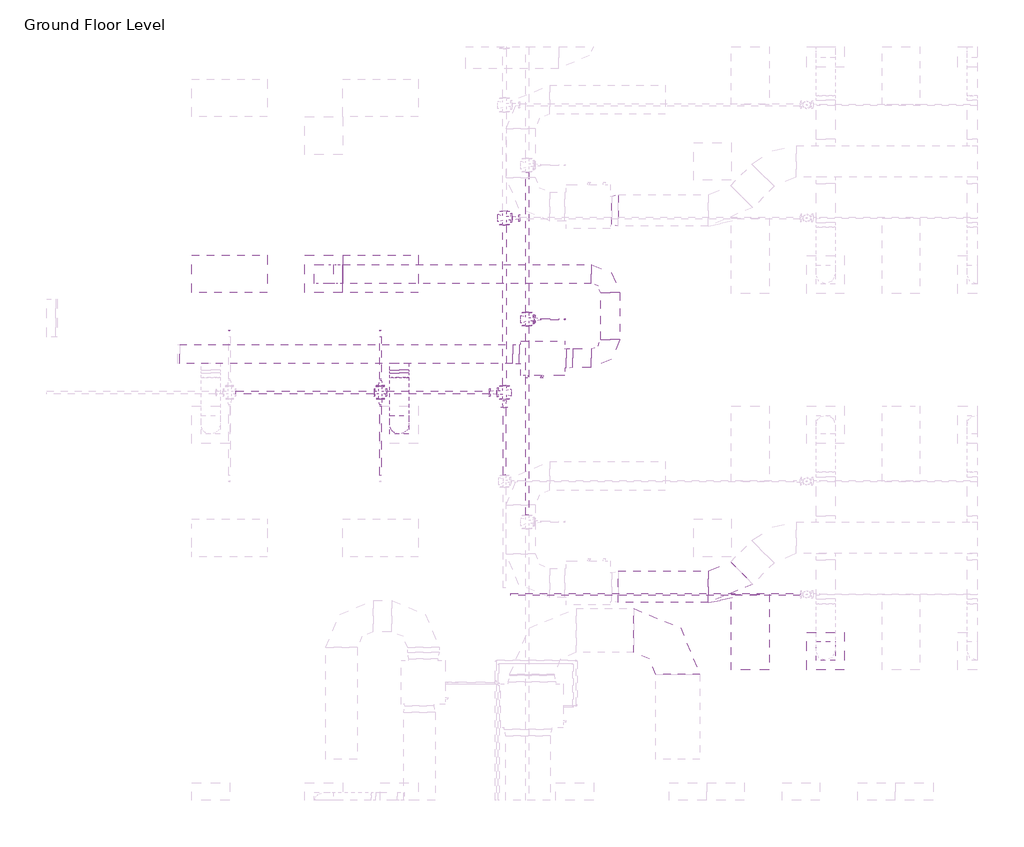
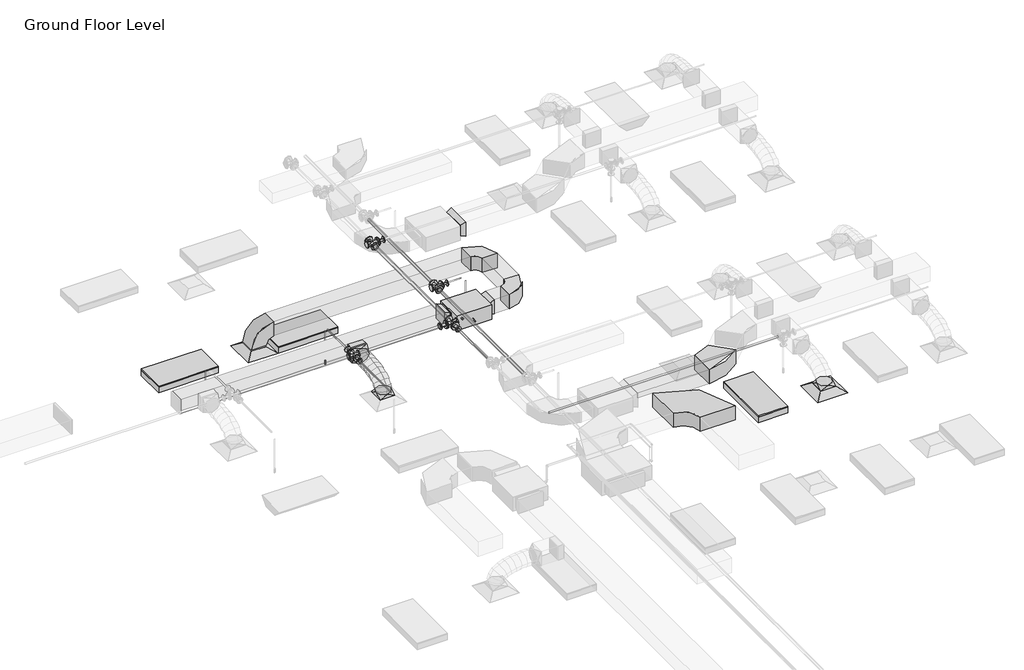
# One storey, part 35 of 68: 13 pipe segments, 12 duct fittings, 10 pipe fittings, 8 duct segments, 3 fire suppression terminals, 3 light fixtures, 2 air terminals, 1 proxy.
"""IFC4 building model written with IfcOpenShell, lengths in millimetres."""

from ifc_helpers import new_model, si_unit, point, frame, frame_2d, origin, place, context, project, spatial, polyline, circle_curve, ellipse_curve, trimmed, segment, composite_curve, outline, extrude, transform, mapped, element, save
from ifc_brep_helpers import plane_surface, cylinder_surface, advanced_brep
from components import m_return_diffuser_600_x_600_face_300_x_300_connection_ff221211, fcu_daikin_iu_27d020f6, m_rectangular_elbow_radius_1_w_618da153, m_rectangular_elbow_radius_1_w_8a62b27e, m_rectangular_elbow_radius_1_5_w_acc56c25, m_rectangular_takeoff_standard_cb0ccb98, m_rectangular_transition_angle_45_degree_2b595dfe, m_rectangular_transition_angle_45_degree_bfac0661, m_rectangular_transition_angle_45_degree_da897c11, m_rectangular_to_round_transition_angle_45_degree_641efff0, m_sprinkler_dry_pendent_hosted_15_mm_dry_pendent_9bda8e11, m_sprinkler_pendent_15_mm_pendent_06fcbd8e, m_troffer_light_parabolic_rectangular1_0600x1200mm_4_lamp_86473d4a, m_cross_flanged_cs_class_150_standard_fc817054, m_reducer_flanged_cs_class_150_standard_83138b42, m_reducer_flanged_cs_class_150_standard_3ab32b2b, m_reducer_flanged_cs_class_150_standard_a7631c35, m_reducer_flanged_cs_class_150_standard_dc68ad9d, m_tee_round_base_flanged_cs_class_150_standard_dd767e04, m_tee_round_base_flanged_cs_class_150_standard_ab36f383

model = new_model("IFC4")

# Units and contexts
model_context = context("Model", 3, world=origin())
ifc_project = project(units=[si_unit("LENGTHUNIT", "METRE", prefix="MILLI")], contexts=[model_context])

# Site, building, storey
site = spatial("IfcSite", under=ifc_project)
building = spatial("IfcBuilding", under=site)
storey = spatial("IfcBuildingStorey", under=building, Name="Ground Floor Level", Elevation=900.0)

# Air terminals
placement = place(None, origin())
m_return_diffuser_600_x_600_face_300_x_300_connection_shape = m_return_diffuser_600_x_600_face_300_x_300_connection_ff221211(model_context)
element("IfcAirTerminal", 1, ObjectType="M_Return Diffuser : 600 x 600 Face 300 x 300 Connection", at=placement, inside=storey, context=model_context, shape_type="MappedRepresentation", body=[
    mapped(m_return_diffuser_600_x_600_face_300_x_300_connection_shape, transform((2762.7672395, -1064.7846466, 3650.0), x_axis=(1.0, 0.0, 0.0), y_axis=(0.0, 1.0, 0.0), z_axis=(0.0, 0.0, 1.0))),
])
element("IfcAirTerminal", 2, ObjectType="M_Supply Diffuser : 600 x 600 Face 300 x 300 Connection", at=placement, inside=storey, context=model_context, shape_type="MappedRepresentation", body=[
    mapped(m_return_diffuser_600_x_600_face_300_x_300_connection_shape, transform((10742.7672395, -7064.7846466, 3650.0), x_axis=(1.0, 0.0, 0.0), y_axis=(0.0, 1.0, 0.0), z_axis=(0.0, 0.0, 1.0))),
])

# Proxy
fcu_daikin_iu_shape = fcu_daikin_iu_27d020f6(model_context)
element("IfcBuildingElementProxy", 3, Name="FCU-DAIKIN IU : 2.3kW, 230V/50Hz/1Ph", ObjectType="FCU-DAIKIN IU : 2.3kW, 230V/50Hz/1Ph", at=placement, inside=storey, context=model_context, shape_type="MappedRepresentation", body=[
    mapped(fcu_daikin_iu_shape, transform((6243.4139492, -2405.2438478, 3934.0874667), x_axis=(0.0, -1.0, 0.0), y_axis=(1.0, 0.0, 0.0), z_axis=(0.0, 0.0, 1.0))),
])

# Duct fittings
m_rectangular_elbow_radius_1_w_shape = m_rectangular_elbow_radius_1_w_618da153(model_context)
element("IfcDuctFitting", 4, ObjectType="M_Rectangular Elbow - Radius : 1 W", at=placement, inside=storey, context=model_context, shape_type="MappedRepresentation", body=[
    mapped(m_rectangular_elbow_radius_1_w_shape, transform((7318.8139492, -2405.2438478, 4075.2874667), x_axis=(1.0, 0.0, 0.0), y_axis=(0.0, 1.0, 0.0), z_axis=(0.0, 0.0, 1.0))),
])
element("IfcDuctFitting", 5, ObjectType="M_Rectangular Elbow - Radius : 1 W", at=placement, inside=storey, context=model_context, shape_type="MappedRepresentation", body=[
    mapped(m_rectangular_elbow_radius_1_w_shape, transform((2762.7672395, -1064.7846466, 4075.2874667), x_axis=(0.0, 0.0, 1.0), y_axis=(1.0, 0.0, 0.0), z_axis=(0.0, 1.0, 0.0))),
])
element("IfcDuctFitting", 6, ObjectType="M_Rectangular Elbow - Radius : 1 W", at=placement, inside=storey, context=model_context, shape_type="MappedRepresentation", body=[
    mapped(m_rectangular_elbow_radius_1_w_shape, transform((7318.8139492, -1064.7846466, 4075.2874667), x_axis=(0.0, 1.0, 0.0), y_axis=(-1.0, 0.0, 0.0), z_axis=(0.0, 0.0, 1.0))),
])
m_rectangular_elbow_radius_1_w_2_shape = m_rectangular_elbow_radius_1_w_8a62b27e(model_context)
element("IfcDuctFitting", 7, ObjectType="M_Rectangular Elbow - Radius : 1 W", at=placement, inside=storey, context=model_context, shape_type="MappedRepresentation", body=[
    mapped(m_rectangular_elbow_radius_1_w_2_shape, transform((8393.4139492, -6738.5358641, 4075.2875), x_axis=(0.0, 1.0, 0.0), y_axis=(-1.0, 0.0, 0.0), z_axis=(0.0, 0.0, 1.0))),
])
m_rectangular_elbow_radius_1_5_w_shape = m_rectangular_elbow_radius_1_5_w_acc56c25(model_context)
element("IfcDuctFitting", 8, ObjectType="M_Rectangular Elbow - Radius : 1.5 W", at=placement, inside=storey, context=model_context, shape_type="MappedRepresentation", body=[
    mapped(m_rectangular_elbow_radius_1_5_w_shape, transform((9187.6927358, -6043.8220473, 4100.0047224), x_axis=(0.9999999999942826, 0.0, -3.3815582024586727e-06), y_axis=(-9.063610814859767e-12, 0.9999999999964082, -2.680306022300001e-06), z_axis=(3.3815582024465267e-06, 2.6803060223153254e-06, 0.9999999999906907))),
])
m_rectangular_takeoff_standard_shape = m_rectangular_takeoff_standard_cb0ccb98(model_context)
element("IfcDuctFitting", 9, ObjectType="M_Rectangular Takeoff : Standard", at=placement, inside=storey, context=model_context, shape_type="MappedRepresentation", body=[
    mapped(m_rectangular_takeoff_standard_shape, transform((3962.7672395, -2491.7438478, 4099.9957364), x_axis=(0.0, -1.0, 0.0), y_axis=(-1.0, 0.0, 0.0), z_axis=(0.0, 0.0, -1.0))),
])
m_rectangular_transition_angle_45_degree_shape = m_rectangular_transition_angle_45_degree_2b595dfe(model_context)
element("IfcDuctFitting", 10, ObjectType="M_Rectangular Transition - Angle : 45 Degree", at=placement, inside=storey, context=model_context, shape_type="MappedRepresentation", body=[
    mapped(m_rectangular_transition_angle_45_degree_shape, transform((7344.2139492, -53.8220473, 4100.0057729), x_axis=(1.0, 0.0, 0.0), y_axis=(0.0, 1.0, 0.0), z_axis=(0.0, 0.0, 1.0))),
])
m_rectangular_transition_angle_45_degree_2_shape = m_rectangular_transition_angle_45_degree_bfac0661(model_context)
element("IfcDuctFitting", 11, ObjectType="M_Rectangular Transition - Angle : 45 Degree", at=placement, inside=storey, context=model_context, shape_type="MappedRepresentation", body=[
    mapped(m_rectangular_transition_angle_45_degree_2_shape, transform((6618.8139492, -2405.2438478, 4075.2874667), x_axis=(1.0, 0.0, 0.0), y_axis=(0.0, 1.0, 0.0), z_axis=(0.0, 0.0, 1.0))),
])
m_rectangular_transition_angle_45_degree_3_shape = m_rectangular_transition_angle_45_degree_da897c11(model_context)
element("IfcDuctFitting", 12, ObjectType="M_Rectangular Transition - Angle : 45 Degree", at=placement, inside=storey, context=model_context, shape_type="MappedRepresentation", body=[
    mapped(m_rectangular_transition_angle_45_degree_3_shape, transform((5868.0139492, -2341.7438478, 4099.9999667), x_axis=(-1.0, 0.0, 0.0), y_axis=(0.0, -1.0, 0.0), z_axis=(0.0, 0.0, 1.0))),
])
m_rectangular_to_round_transition_angle_45_degree_shape = m_rectangular_to_round_transition_angle_45_degree_641efff0(model_context)
element("IfcDuctFitting", 13, ObjectType="M_Rectangular to Round Transition - Angle : 45 Degree", at=placement, inside=storey, context=model_context, shape_type="MappedRepresentation", body=[
    mapped(m_rectangular_to_round_transition_angle_45_degree_shape, transform((10742.7672395, -7064.7846466, 3751.6), x_axis=(0.0, 0.0, 1.0), y_axis=(-1.0, 0.0, 0.0), z_axis=(0.0, -1.0, 0.0))),
])
element("IfcDuctFitting", 14, ObjectType="M_Rectangular to Round Transition - Angle : 45 Degree", at=placement, inside=storey, context=model_context, shape_type="MappedRepresentation", body=[
    mapped(m_rectangular_to_round_transition_angle_45_degree_shape, transform((3962.7672395, -3464.7846466, 3751.6), x_axis=(0.0, 0.0, 1.0), y_axis=(-1.0, 0.0, 0.0), z_axis=(0.0, -1.0, 0.0))),
])
element("IfcDuctFitting", 15, ObjectType="M_Rectangular to Round Transition - Angle : 45 Degree", at=placement, inside=storey, context=model_context, shape_type="MappedRepresentation", body=[
    mapped(m_rectangular_to_round_transition_angle_45_degree_shape, transform((3962.7672395, -2637.4444518, 4099.9957364), x_axis=(0.0, -1.0, 0.0), y_axis=(1.0, 0.0, 0.0), z_axis=(0.0, 0.0, 1.0))),
])

# Duct segments
element("IfcDuctSegment", 16, ObjectType="Flex - Round", at=placement, inside=storey, context=model_context, shape_type="AdvancedBrep", body=[
    advanced_brep(
    [(4112.7672395, -3464.7846466, 3826.6), (3962.7672395, -3614.7846466, 3826.6), (3812.7672395, -3464.7846466, 3826.6), (3962.7672395, -3314.7846466, 3826.6), (4112.7672395, -3464.7846466, 3857.9378904), (3962.7672395, -3614.7846466, 3883.5813314), (3812.7672395, -3464.7846466, 3857.9378904), (3962.7672395, -3314.7846466, 3832.2944494), (4112.7672395, -3447.7685958, 3906.2506506), (3962.7672395, -3581.5063062, 3978.066738), (3812.7672395, -3447.7685958, 3906.2506506), (3962.7672395, -3314.0308854, 3834.4345631), (4112.7672395, -3400.5843936, 3968.711118), (3962.7672395, -3504.7895631, 4079.6211441), (3812.7672395, -3400.5843936, 3968.711118), (3962.7672395, -3296.3792241, 3857.8010918), (4112.7672395, -3329.0279651, 4016.0693364), (3962.7672395, -3397.9608708, 4150.3236185), (3812.7672395, -3329.0279651, 4016.0693364), (3962.7672395, -3260.0950595, 3881.8150544), (4112.7672395, -3238.8952355, 4050.4132402), (3962.7672395, -3282.4547417, 4194.3357259), (3812.7672395, -3238.8952355, 4050.4132402), (3962.7672395, -3195.3357294, 3906.4907544), (4112.7672395, -3135.98213, 4073.8307635), (3962.7672395, -3162.5418624, 4221.6214893), (3812.7672395, -3135.98213, 4073.8307635), (3962.7672395, -3109.4223976, 3926.0400376), (4112.7672395, -3026.0845737, 4088.4098405), (3962.7672395, -3041.2344403, 4237.7142061), (3812.7672395, -3026.0845737, 4088.4098405), (3962.7672395, -3010.934707, 3939.1054749), (4112.7672395, -2914.9984918, 4096.2384055), (3962.7672395, -2922.5030142, 4246.0815611), (3812.7672395, -2914.9984918, 4096.2384055), (3962.7672395, -2907.4939693, 3946.3952499), (4112.7672395, -2808.5198094, 4099.4043927), (3962.7672395, -2811.210829, 4249.3906708), (3812.7672395, -2808.5198094, 4099.4043927), (3962.7672395, -2805.8287898, 3949.4181147), (4112.7672395, -2712.4444518, 4099.9957364), (3962.7672395, -2711.5212194, 3949.9985777), (3812.7672395, -2712.4444518, 4099.9957364), (3962.7672395, -2713.3676841, 4249.9928952)],
    [
        (0, 1, circle_curve(frame((3962.7672395, -3464.7846466, 3826.6), z_axis=(0.0, 0.0, -1.0), x_axis=(1.0, 0.0, 0.0)), 150.0)),
        (1, 2, circle_curve(frame((3962.7672395, -3464.7846466, 3826.6), z_axis=(0.0, 0.0, -1.0), x_axis=(1.0, 0.0, 0.0)), 150.0)),
        (2, 3, circle_curve(frame((3962.7672395, -3464.7846466, 3826.6), z_axis=(0.0, 0.0, -1.0), x_axis=(1.0, 0.0, 0.0)), 150.0)),
        (3, 0, circle_curve(frame((3962.7672395, -3464.7846466, 3826.6), z_axis=(0.0, 0.0, -1.0), x_axis=(1.0, 0.0, 0.0)), 150.0)),
        (0, 4),
        (4, 5, ellipse_curve(frame((3962.7672395, -3464.7846466, 3857.9378904), z_axis=(0.0, -0.1685115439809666, -0.9856996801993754), x_axis=(0.0, 0.9856996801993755, -0.1685115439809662)), 152.1761679, 150.0)),
        (5, 1),
        (5, 6, ellipse_curve(frame((3962.7672395, -3464.7846466, 3857.9378904), z_axis=(0.0, -0.1685115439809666, -0.9856996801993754), x_axis=(0.0, 0.9856996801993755, -0.1685115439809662)), 152.1761679, 150.0)),
        (6, 2),
        (6, 7, ellipse_curve(frame((3962.7672395, -3464.7846466, 3857.9378904), z_axis=(0.0, -0.1685115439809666, -0.9856996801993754), x_axis=(0.0, 0.9856996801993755, -0.1685115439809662)), 152.1761679, 150.0)),
        (7, 3),
        (7, 4, ellipse_curve(frame((3962.7672395, -3464.7846466, 3857.9378904), z_axis=(0.0, -0.1685115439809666, -0.9856996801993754), x_axis=(0.0, 0.9856996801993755, -0.1685115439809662)), 152.1761679, 150.0)),
        (4, 8),
        (8, 9, ellipse_curve(frame((3962.7672395, -3447.7685958, 3906.2506506), z_axis=(0.0, -0.4730958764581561, -0.8810109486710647), x_axis=(0.0, 0.8810109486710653, -0.4730958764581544)), 151.800282, 150.0)),
        (9, 5),
        (9, 10, ellipse_curve(frame((3962.7672395, -3447.7685958, 3906.2506506), z_axis=(0.0, -0.4730958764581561, -0.8810109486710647), x_axis=(0.0, 0.8810109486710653, -0.4730958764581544)), 151.800282, 150.0)),
        (10, 6),
        (10, 11, ellipse_curve(frame((3962.7672395, -3447.7685958, 3906.2506506), z_axis=(0.0, -0.4730958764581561, -0.8810109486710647), x_axis=(0.0, 0.8810109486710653, -0.4730958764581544)), 151.800282, 150.0)),
        (11, 7),
        (11, 8, ellipse_curve(frame((3962.7672395, -3447.7685958, 3906.2506506), z_axis=(0.0, -0.4730958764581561, -0.8810109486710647), x_axis=(0.0, 0.8810109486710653, -0.4730958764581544)), 151.800282, 150.0)),
        (8, 12),
        (12, 13, ellipse_curve(frame((3962.7672395, -3400.5843936, 3968.711118), z_axis=(0.0, -0.7287924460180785, -0.6847346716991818), x_axis=(0.0, 0.6847346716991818, -0.7287924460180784)), 152.1832818, 150.0)),
        (13, 9),
        (13, 14, ellipse_curve(frame((3962.7672395, -3400.5843936, 3968.711118), z_axis=(0.0, -0.7287924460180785, -0.6847346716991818), x_axis=(0.0, 0.6847346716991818, -0.7287924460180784)), 152.1832818, 150.0)),
        (14, 10),
        (14, 15, ellipse_curve(frame((3962.7672395, -3400.5843936, 3968.711118), z_axis=(0.0, -0.7287924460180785, -0.6847346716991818), x_axis=(0.0, 0.6847346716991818, -0.7287924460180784)), 152.1832818, 150.0)),
        (15, 11),
        (15, 12, ellipse_curve(frame((3962.7672395, -3400.5843936, 3968.711118), z_axis=(0.0, -0.7287924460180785, -0.6847346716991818), x_axis=(0.0, 0.6847346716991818, -0.7287924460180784)), 152.1832818, 150.0)),
        (12, 16),
        (16, 17, ellipse_curve(frame((3962.7672395, -3329.0279651, 4016.0693364), z_axis=(0.0, -0.8895898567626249, -0.45676020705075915), x_axis=(0.0, 0.45676020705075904, -0.889589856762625)), 150.9170558, 150.0)),
        (17, 13),
        (17, 18, ellipse_curve(frame((3962.7672395, -3329.0279651, 4016.0693364), z_axis=(0.0, -0.8895898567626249, -0.45676020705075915), x_axis=(0.0, 0.45676020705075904, -0.889589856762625)), 150.9170558, 150.0)),
        (18, 14),
        (18, 19, ellipse_curve(frame((3962.7672395, -3329.0279651, 4016.0693364), z_axis=(0.0, -0.8895898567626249, -0.45676020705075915), x_axis=(0.0, 0.45676020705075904, -0.889589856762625)), 150.9170558, 150.0)),
        (19, 15),
        (19, 16, ellipse_curve(frame((3962.7672395, -3329.0279651, 4016.0693364), z_axis=(0.0, -0.8895898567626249, -0.45676020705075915), x_axis=(0.0, 0.45676020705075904, -0.889589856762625)), 150.9170558, 150.0)),
        (16, 20),
        (20, 21, ellipse_curve(frame((3962.7672395, -3238.8952355, 4050.4132402), z_axis=(0.0, -0.9571228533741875, -0.2896823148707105), x_axis=(0.0, 0.28968231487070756, -0.9571228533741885)), 150.3699188, 150.0)),
        (21, 17),
        (21, 22, ellipse_curve(frame((3962.7672395, -3238.8952355, 4050.4132402), z_axis=(0.0, -0.9571228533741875, -0.2896823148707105), x_axis=(0.0, 0.28968231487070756, -0.9571228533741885)), 150.3699188, 150.0)),
        (22, 18),
        (22, 23, ellipse_curve(frame((3962.7672395, -3238.8952355, 4050.4132402), z_axis=(0.0, -0.9571228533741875, -0.2896823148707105), x_axis=(0.0, 0.28968231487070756, -0.9571228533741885)), 150.3699188, 150.0)),
        (23, 19),
        (23, 20, ellipse_curve(frame((3962.7672395, -3238.8952355, 4050.4132402), z_axis=(0.0, -0.9571228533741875, -0.2896823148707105), x_axis=(0.0, 0.28968231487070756, -0.9571228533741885)), 150.3699188, 150.0)),
        (20, 24),
        (24, 25, ellipse_curve(frame((3962.7672395, -3135.98213, 4073.8307635), z_axis=(0.0, -0.984232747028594, -0.1768782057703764), x_axis=(0.0, 0.17687820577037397, -0.9842327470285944)), 150.1583099, 150.0)),
        (25, 21),
        (25, 26, ellipse_curve(frame((3962.7672395, -3135.98213, 4073.8307635), z_axis=(0.0, -0.984232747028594, -0.1768782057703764), x_axis=(0.0, 0.17687820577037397, -0.9842327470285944)), 150.1583099, 150.0)),
        (26, 22),
        (26, 27, ellipse_curve(frame((3962.7672395, -3135.98213, 4073.8307635), z_axis=(0.0, -0.984232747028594, -0.1768782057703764), x_axis=(0.0, 0.17687820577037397, -0.9842327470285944)), 150.1583099, 150.0)),
        (27, 23),
        (27, 24, ellipse_curve(frame((3962.7672395, -3135.98213, 4073.8307635), z_axis=(0.0, -0.984232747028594, -0.1768782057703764), x_axis=(0.0, 0.17687820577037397, -0.9842327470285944)), 150.1583099, 150.0)),
        (24, 28),
        (28, 29, ellipse_curve(frame((3962.7672395, -3026.0845737, 4088.4098405), z_axis=(0.0, -0.9948913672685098, -0.10095131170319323), x_axis=(0.0, 0.10095131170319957, -0.994891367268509)), 150.0710233, 150.0)),
        (29, 25),
        (29, 30, ellipse_curve(frame((3962.7672395, -3026.0845737, 4088.4098405), z_axis=(0.0, -0.9948913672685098, -0.10095131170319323), x_axis=(0.0, 0.10095131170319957, -0.994891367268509)), 150.0710233, 150.0)),
        (30, 26),
        (30, 31, ellipse_curve(frame((3962.7672395, -3026.0845737, 4088.4098405), z_axis=(0.0, -0.9948913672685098, -0.10095131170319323), x_axis=(0.0, 0.10095131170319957, -0.994891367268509)), 150.0710233, 150.0)),
        (31, 27),
        (31, 28, ellipse_curve(frame((3962.7672395, -3026.0845737, 4088.4098405), z_axis=(0.0, -0.9948913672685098, -0.10095131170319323), x_axis=(0.0, 0.10095131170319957, -0.994891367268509)), 150.0710233, 150.0)),
        (28, 32),
        (32, 33, ellipse_curve(frame((3962.7672395, -2914.9984918, 4096.2384055), z_axis=(0.0, -0.9987482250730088, -0.050019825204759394), x_axis=(0.0, 0.05001982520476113, -0.9987482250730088)), 150.0309606, 150.0)),
        (33, 29),
        (33, 34, ellipse_curve(frame((3962.7672395, -2914.9984918, 4096.2384055), z_axis=(0.0, -0.9987482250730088, -0.050019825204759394), x_axis=(0.0, 0.05001982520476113, -0.9987482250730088)), 150.0309606, 150.0)),
        (34, 30),
        (34, 35, ellipse_curve(frame((3962.7672395, -2914.9984918, 4096.2384055), z_axis=(0.0, -0.9987482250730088, -0.050019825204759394), x_axis=(0.0, 0.05001982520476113, -0.9987482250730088)), 150.0309606, 150.0)),
        (35, 31),
        (35, 32, ellipse_curve(frame((3962.7672395, -2914.9984918, 4096.2384055), z_axis=(0.0, -0.9987482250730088, -0.050019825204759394), x_axis=(0.0, 0.05001982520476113, -0.9987482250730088)), 150.0309606, 150.0)),
        (32, 36),
        (36, 37, ellipse_curve(frame((3962.7672395, -2808.5198094, 4099.4043927), z_axis=(0.0, -0.9998390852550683, -0.01793888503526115), x_axis=(0.0, 0.017938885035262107, -0.9998390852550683)), 150.0104169, 150.0)),
        (37, 33),
        (37, 38, ellipse_curve(frame((3962.7672395, -2808.5198094, 4099.4043927), z_axis=(0.0, -0.9998390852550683, -0.01793888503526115), x_axis=(0.0, 0.017938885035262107, -0.9998390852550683)), 150.0104169, 150.0)),
        (38, 34),
        (38, 39, ellipse_curve(frame((3962.7672395, -2808.5198094, 4099.4043927), z_axis=(0.0, -0.9998390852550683, -0.01793888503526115), x_axis=(0.0, 0.017938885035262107, -0.9998390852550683)), 150.0104169, 150.0)),
        (39, 35),
        (39, 36, ellipse_curve(frame((3962.7672395, -2808.5198094, 4099.4043927), z_axis=(0.0, -0.9998390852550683, -0.01793888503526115), x_axis=(0.0, 0.017938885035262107, -0.9998390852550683)), 150.0104169, 150.0)),
        (40, 41, circle_curve(frame((3962.7672395, -2712.4444518, 4099.9957364), z_axis=(0.0, 0.9999810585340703, 0.006154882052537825), x_axis=(1.0, 0.0, 0.0)), 150.0)),
        (41, 42, circle_curve(frame((3962.7672395, -2712.4444518, 4099.9957364), z_axis=(0.0, 0.9999810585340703, 0.006154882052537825), x_axis=(1.0, 0.0, 0.0)), 150.0)),
        (42, 43, circle_curve(frame((3962.7672395, -2712.4444518, 4099.9957364), z_axis=(0.0, 0.9999810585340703, 0.006154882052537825), x_axis=(1.0, 0.0, 0.0)), 150.0)),
        (43, 40, circle_curve(frame((3962.7672395, -2712.4444518, 4099.9957364), z_axis=(0.0, 0.9999810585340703, 0.006154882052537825), x_axis=(1.0, 0.0, 0.0)), 150.0)),
        (36, 40),
        (43, 37),
        (42, 38),
        (41, 39),
    ],
    [
        plane_surface(frame((3962.7672395, -3614.7846466, 3826.6), z_axis=(0.0, 0.0, -1.0), x_axis=(1.0, 0.0, 0.0))),
        cylinder_surface(frame((3962.7672395, -3464.7846466, 3826.6), z_axis=(0.0, 0.0, -1.0), x_axis=(1.0, 0.0, 0.0)), 150.0),
        cylinder_surface(frame((3962.7672395, -3464.7846466, 3857.9378904), z_axis=(0.0, -0.3322035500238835, -0.9432077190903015), x_axis=(1.0, 0.0, 0.0)), 150.0),
        cylinder_surface(frame((3962.7672395, -3447.7685958, 3906.2506506), z_axis=(0.0, -0.6027668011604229, -0.7979174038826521), x_axis=(1.0, 0.0, 0.0)), 150.0),
        cylinder_surface(frame((3962.7672395, -3400.5843936, 3968.711118), z_axis=(0.0, -0.8339069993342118, -0.5519049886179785), x_axis=(1.0, 0.0, 0.0)), 150.0),
        cylinder_surface(frame((3962.7672395, -3329.0279651, 4016.0693364), z_axis=(0.0, -0.9344614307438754, -0.35606436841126), x_axis=(1.0, 0.0, 0.0)), 150.0),
        cylinder_surface(frame((3962.7672395, -3238.8952355, 4050.4132402), z_axis=(0.0, -0.9750751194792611, -0.22187499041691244), x_axis=(1.0, 0.0, 0.0)), 150.0),
        cylinder_surface(frame((3962.7672395, -3135.98213, 4073.8307635), z_axis=(0.0, -0.9913150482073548, -0.1315084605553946), x_axis=(1.0, 0.0, 0.0)), 150.0),
        cylinder_surface(frame((3962.7672395, -3026.0845737, 4088.4098405), z_axis=(0.0, -0.9975259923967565, -0.07029860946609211), x_axis=(1.0, 0.0, 0.0)), 150.0),
        cylinder_surface(frame((3962.7672395, -2914.9984918, 4096.2384055), z_axis=(0.0, -0.9995582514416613, -0.029720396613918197), x_axis=(1.0, 0.0, 0.0)), 150.0),
        plane_surface(frame((3962.7672395, -2713.3676841, 4249.9928952), z_axis=(0.0, 0.9999810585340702, 0.006154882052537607), x_axis=(1.0, 0.0, 0.0))),
        cylinder_surface(frame((3962.7672395, -2808.5198094, 4099.4043927), z_axis=(0.0, -0.9999810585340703, -0.006154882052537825), x_axis=(1.0, 0.0, 0.0)), 150.0),
    ],
    [
        (0, [[1, 2, 3, 4]]),
        (1, [[-1, 5, 6, 7]]),
        (1, [[-2, -7, 8, 9]]),
        (1, [[-3, -9, 10, 11]]),
        (1, [[-4, -11, 12, -5]]),
        (2, [[-6, 13, 14, 15]]),
        (2, [[-8, -15, 16, 17]]),
        (2, [[-10, -17, 18, 19]]),
        (2, [[-12, -19, 20, -13]]),
        (3, [[-14, 21, 22, 23]]),
        (3, [[-16, -23, 24, 25]]),
        (3, [[-18, -25, 26, 27]]),
        (3, [[-20, -27, 28, -21]]),
        (4, [[-22, 29, 30, 31]]),
        (4, [[-24, -31, 32, 33]]),
        (4, [[-26, -33, 34, 35]]),
        (4, [[-28, -35, 36, -29]]),
        (5, [[-30, 37, 38, 39]]),
        (5, [[-32, -39, 40, 41]]),
        (5, [[-34, -41, 42, 43]]),
        (5, [[-36, -43, 44, -37]]),
        (6, [[-38, 45, 46, 47]]),
        (6, [[-40, -47, 48, 49]]),
        (6, [[-42, -49, 50, 51]]),
        (6, [[-44, -51, 52, -45]]),
        (7, [[-46, 53, 54, 55]]),
        (7, [[-48, -55, 56, 57]]),
        (7, [[-50, -57, 58, 59]]),
        (7, [[-52, -59, 60, -53]]),
        (8, [[-54, 61, 62, 63]]),
        (8, [[-56, -63, 64, 65]]),
        (8, [[-58, -65, 66, 67]]),
        (8, [[-60, -67, 68, -61]]),
        (9, [[-62, 69, 70, 71]]),
        (9, [[-64, -71, 72, 73]]),
        (9, [[-66, -73, 74, 75]]),
        (9, [[-68, -75, 76, -69]]),
        (10, [[77, 78, 79, 80]]),
        (11, [[-70, 81, -80, 82]]),
        (11, [[-72, -82, -79, 83]]),
        (11, [[-74, -83, -78, 84]]),
        (11, [[-76, -84, -77, -81]]),
    ],
),
])
element("IfcDuctSegment", 17, ObjectType="Radius Elbows / Taps", at=placement, inside=storey, context=model_context, shape_type="SweptSolid", body=[
    extrude(outline(polyline([(7447.693178, -6293.8220473), (7447.693178, -5793.8220473), (8877.032564, -5793.8220473), (8877.032564, -6293.8220473), (7447.693178, -6293.8220473)])), frame((0.0, 0.0, 3950.0057729), z_axis=(0.0, 0.0, 1.0), x_axis=(1.0, 0.0, 0.0)), (0.0, 0.0, 1.0), 300.0),
])
element("IfcDuctSegment", 18, ObjectType="Radius Elbows / Taps", at=placement, inside=storey, context=model_context, shape_type="SweptSolid", body=[
    extrude(outline(polyline([(6722.2630004, -2555.2438478), (6722.2630004, -2255.2438478), (7018.8139492, -2255.2438478), (7018.8139492, -2555.2438478), (6722.2630004, -2555.2438478)])), frame((0.0, 0.0, 3925.2874667), z_axis=(0.0, 0.0, 1.0), x_axis=(1.0, 0.0, 0.0)), (0.0, 0.0, 1.0), 300.0),
])
element("IfcDuctSegment", 19, ObjectType="Radius Elbows / Taps", at=placement, inside=storey, context=model_context, shape_type="SweptSolid", body=[
    extrude(outline(polyline([(7468.8139492, -2105.2438478), (7168.8139492, -2105.2438478), (7168.8139492, -1364.7846466), (7468.8139492, -1364.7846466), (7468.8139492, -2105.2438478)])), frame((0.0, 0.0, 3925.2874667), z_axis=(0.0, 0.0, 1.0), x_axis=(1.0, 0.0, 0.0)), (0.0, 0.0, 1.0), 300.0),
])
element("IfcDuctSegment", 20, ObjectType="Radius Elbows / Taps", at=placement, inside=storey, context=model_context, shape_type="SweptSolid", body=[
    extrude(outline(polyline([(3062.7672395, -1214.7846466), (3062.7672395, -914.7846466), (7018.8139492, -914.7846466), (7018.8139492, -1214.7846466), (3062.7672395, -1214.7846466)])), frame((0.0, 0.0, 3925.2874667), z_axis=(0.0, 0.0, 1.0), x_axis=(1.0, 0.0, 0.0)), (0.0, 0.0, 1.0), 300.0),
])
element("IfcDuctSegment", 21, ObjectType="Radius Elbows / Taps", at=placement, inside=storey, context=model_context, shape_type="SweptSolid", body=[
    extrude(outline(polyline([(2912.7672395, -914.7846466), (2912.7672395, -1214.7846466), (2612.7672395, -1214.7846466), (2612.7672395, -914.7846466), (2912.7672395, -914.7846466)])), frame((0.0, 0.0, 3751.6), z_axis=(0.0, 0.0, 1.0), x_axis=(1.0, 0.0, 0.0)), (0.0, 0.0, 1.0), 23.6874667),
])
element("IfcDuctSegment", 22, ObjectType="Radius Elbows / Taps", at=placement, inside=storey, context=model_context, shape_type="SweptSolid", body=[
    extrude(outline(polyline([(0.0, -300.0), (0.0, 0.0), (5296.5207712, 0.0), (5296.5207712, -300.0), (0.0, -300.0)])), frame((5764.5350754, -2491.7438478, 3950.0), z_axis=(-2.366321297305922e-06, 0.0, 0.9999999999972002), x_axis=(-0.9999999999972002, 0.0, -2.366321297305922e-06)), (0.0, 0.0, 1.0), 300.0),
])
element("IfcDuctSegment", 23, ObjectType="Radius Elbows / Taps", at=placement, inside=storey, context=model_context, shape_type="SweptSolid", body=[
    extrude(outline(polyline([(3812.7672395, -2593.3438478), (4112.7672395, -2593.3438478), (4112.7672395, -2637.4444518), (3812.7672395, -2637.4444518), (3812.7672395, -2593.3438478)])), frame((0.0, 0.0, 3949.9957364), z_axis=(0.0, 0.0, 1.0), x_axis=(1.0, 0.0, 0.0)), (0.0, 0.0, 1.0), 300.0),
])

# Fire suppression terminals
m_sprinkler_dry_pendent_hosted_15_mm_dry_pendent_shape = m_sprinkler_dry_pendent_hosted_15_mm_dry_pendent_9bda8e11(model_context)
element("IfcFireSuppressionTerminal", 24, ObjectType="M_Sprinkler - Dry - Pendent - Hosted : 15 mm Dry Pendent", at=placement, inside=storey, context=model_context, shape_type="MappedRepresentation", body=[
    mapped(m_sprinkler_dry_pendent_hosted_15_mm_dry_pendent_shape, transform((1262.7672395, -1964.7846466, 3650.0), x_axis=(1.0, 0.0, 0.0), y_axis=(0.0, -1.0, 0.0), z_axis=(0.0, 0.0, -1.0))),
])
element("IfcFireSuppressionTerminal", 25, ObjectType="M_Sprinkler - Dry - Pendent - Hosted : 15 mm Dry Pendent", at=placement, inside=storey, context=model_context, shape_type="MappedRepresentation", body=[
    mapped(m_sprinkler_dry_pendent_hosted_15_mm_dry_pendent_shape, transform((3662.7672395, -1964.7846466, 3650.0), x_axis=(1.0, 0.0, 0.0), y_axis=(0.0, -1.0, 0.0), z_axis=(0.0, 0.0, -1.0))),
])
m_sprinkler_pendent_15_mm_pendent_shape = m_sprinkler_pendent_15_mm_pendent_06fcbd8e(model_context)
element("IfcFireSuppressionTerminal", 26, ObjectType="M_Sprinkler - Pendent : 15 mm Pendent", at=placement, inside=storey, context=model_context, shape_type="MappedRepresentation", body=[
    mapped(m_sprinkler_pendent_15_mm_pendent_shape, transform((6592.5481019, -1785.2908301, 3650.0), x_axis=(1.0, 0.0, 0.0), y_axis=(0.0, 1.0, 0.0), z_axis=(0.0, 0.0, 1.0))),
])

# Light fixtures
m_troffer_light_parabolic_rectangular1_0600x1200mm_4_lamp_shape = m_troffer_light_parabolic_rectangular1_0600x1200mm_4_lamp_86473d4a(model_context)
element("IfcLightFixture", 27, ObjectType="M_Troffer Light - Parabolic Rectangular1 : 0600x1200mm(4 Lamp) - 277V 2", at=placement, inside=storey, context=model_context, shape_type="MappedRepresentation", body=[
    mapped(m_troffer_light_parabolic_rectangular1_0600x1200mm_4_lamp_shape, transform((9483.3013074, -6746.081145, 3650.0), x_axis=(0.0, 1.0, 0.0), y_axis=(-1.0, 0.0, 0.0), z_axis=(0.0, 0.0, 1.0))),
])
element("IfcLightFixture", 28, ObjectType="M_Troffer Light - Parabolic Rectangular1 : 0600x1200mm(4 Lamp) - 277V 2", at=placement, inside=storey, context=model_context, shape_type="MappedRepresentation", body=[
    mapped(m_troffer_light_parabolic_rectangular1_0600x1200mm_4_lamp_shape, transform((3681.4707411, -1005.3187145, 3650.0), x_axis=(1.0, 0.0, 0.0), y_axis=(0.0, 1.0, 0.0), z_axis=(0.0, 0.0, 1.0))),
])
element("IfcLightFixture", 29, ObjectType="M_Troffer Light - Parabolic Rectangular1 : 0600x1200mm(4 Lamp) - 277V 2", at=placement, inside=storey, context=model_context, shape_type="MappedRepresentation", body=[
    mapped(m_troffer_light_parabolic_rectangular1_0600x1200mm_4_lamp_shape, transform((1281.4707411, -1005.3187145, 3650.0), x_axis=(1.0, 0.0, 0.0), y_axis=(0.0, 1.0, 0.0), z_axis=(0.0, 0.0, 1.0))),
])

# Pipe fittings
m_cross_flanged_cs_class_150_standard_shape = m_cross_flanged_cs_class_150_standard_fc817054(model_context)
element("IfcPipeFitting", 30, ObjectType="M_Cross - Flanged - CS - Class 150 : Standard", at=placement, inside=storey, context=model_context, shape_type="MappedRepresentation", body=[
    mapped(m_cross_flanged_cs_class_150_standard_shape, transform((3662.7672395, -2950.3491993, 4360.0), x_axis=(1.0, 0.0, 0.0), y_axis=(0.0, -1.0, 0.0), z_axis=(0.0, 0.0, -1.0))),
])
m_reducer_flanged_cs_class_150_standard_shape = m_reducer_flanged_cs_class_150_standard_83138b42(model_context)
element("IfcPipeFitting", 31, ObjectType="M_Reducer - Flanged - CS - Class 150 : Standard", at=placement, inside=storey, context=model_context, shape_type="MappedRepresentation", body=[
    mapped(m_reducer_flanged_cs_class_150_standard_shape, transform((6109.3164057, -1785.2908301, 4291.2754753), x_axis=(1.0, 0.0, 0.0), y_axis=(0.0, 0.0, -1.0), z_axis=(0.0, 1.0, 0.0))),
])
m_reducer_flanged_cs_class_150_standard_2_shape = m_reducer_flanged_cs_class_150_standard_3ab32b2b(model_context)
element("IfcPipeFitting", 32, ObjectType="M_Reducer - Flanged - CS - Class 150 : Standard", at=placement, inside=storey, context=model_context, shape_type="MappedRepresentation", body=[
    mapped(m_reducer_flanged_cs_class_150_standard_2_shape, transform((5521.869498, -2950.3491993, 4360.0), x_axis=(-1.0, 0.0, 0.0), y_axis=(0.0, -1.0, 0.0), z_axis=(0.0, 0.0, 1.0))),
])
m_reducer_flanged_cs_class_150_standard_3_shape = m_reducer_flanged_cs_class_150_standard_a7631c35(model_context)
element("IfcPipeFitting", 33, ObjectType="M_Reducer - Flanged - CS - Class 150 : Standard", at=placement, inside=storey, context=model_context, shape_type="MappedRepresentation", body=[
    mapped(m_reducer_flanged_cs_class_150_standard_3_shape, transform((5749.869498, -174.7846466, 4360.0), x_axis=(1.0, 0.0, 0.0), y_axis=(0.0, 0.0, 1.0), z_axis=(0.0, -1.0, 0.0))),
])
element("IfcPipeFitting", 34, ObjectType="M_Reducer - Flanged - CS - Class 150 : Standard", at=placement, inside=storey, context=model_context, shape_type="MappedRepresentation", body=[
    mapped(m_reducer_flanged_cs_class_150_standard_3_shape, transform((5635.869498, -3064.3491993, 4360.0), x_axis=(0.0, -1.0, 0.0), y_axis=(1.0, 0.0, 0.0), z_axis=(0.0, 0.0, 1.0))),
])
m_reducer_flanged_cs_class_150_standard_4_shape = m_reducer_flanged_cs_class_150_standard_dc68ad9d(model_context)
element("IfcPipeFitting", 35, ObjectType="M_Reducer - Flanged - CS - Class 150 : Standard", at=placement, inside=storey, context=model_context, shape_type="MappedRepresentation", body=[
    mapped(m_reducer_flanged_cs_class_150_standard_4_shape, transform((3662.7672395, -2848.3491993, 4360.0), x_axis=(0.0, 1.0, 0.0), y_axis=(-1.0, 0.0, 0.0), z_axis=(0.0, 0.0, 1.0))),
])
element("IfcPipeFitting", 36, ObjectType="M_Reducer - Flanged - CS - Class 150 : Standard", at=placement, inside=storey, context=model_context, shape_type="MappedRepresentation", body=[
    mapped(m_reducer_flanged_cs_class_150_standard_4_shape, transform((3662.7672395, -3052.3491993, 4360.0), x_axis=(0.0, -1.0, 0.0), y_axis=(1.0, 0.0, 0.0), z_axis=(0.0, 0.0, 1.0))),
])
m_tee_round_base_flanged_cs_class_150_standard_shape = m_tee_round_base_flanged_cs_class_150_standard_dd767e04(model_context)
element("IfcPipeFitting", 37, ObjectType="M_Tee Round Base - Flanged - CS - Class 150 : Standard", at=placement, inside=storey, context=model_context, shape_type="MappedRepresentation", body=[
    mapped(m_tee_round_base_flanged_cs_class_150_standard_shape, transform((5635.869498, -174.7846466, 4360.0), x_axis=(0.0, 1.0, 0.0), y_axis=(-1.0, 0.0, 0.0), z_axis=(0.0, 0.0, 1.0))),
])
element("IfcPipeFitting", 38, ObjectType="M_Tee Round Base - Flanged - CS - Class 150 : Standard", at=placement, inside=storey, context=model_context, shape_type="MappedRepresentation", body=[
    mapped(m_tee_round_base_flanged_cs_class_150_standard_shape, transform((5635.869498, -2950.3491993, 4360.0), x_axis=(0.0, 1.0, 0.0), y_axis=(1.0, 0.0, 0.0), z_axis=(0.0, 0.0, -1.0))),
])
m_tee_round_base_flanged_cs_class_150_standard_2_shape = m_tee_round_base_flanged_cs_class_150_standard_ab36f383(model_context)
element("IfcPipeFitting", 39, ObjectType="M_Tee Round Base - Flanged - CS - Class 150 : Standard", at=placement, inside=storey, context=model_context, shape_type="MappedRepresentation", body=[
    mapped(m_tee_round_base_flanged_cs_class_150_standard_2_shape, transform((5997.057812, -1785.2908301, 4291.0943441), x_axis=(0.0, 1.0, 0.0), y_axis=(-1.0, 0.0, 0.0), z_axis=(0.0, 0.0, 1.0))),
])

# Pipe segments
element("IfcPipeSegment", 40, ObjectType="Steel flanged", at=placement, inside=storey, context=model_context, shape_type="SweptSolid", body=[
    extrude(outline(composite_curve([segment(trimmed(circle_curve(frame_2d((6592.5481019, -1785.2908301)), 10.668), [point((6581.8801019, -1785.2908301))], [point((6592.5481019, -1774.6228301))], False, "CARTESIAN"), True, "CONTINUOUS"), segment(trimmed(circle_curve(frame_2d((6592.5481019, -1785.2908301)), 10.668), [point((6592.5481019, -1774.6228301))], [point((6603.2161019, -1785.2908301))], False, "CARTESIAN"), True, "CONTINUOUS"), segment(trimmed(circle_curve(frame_2d((6592.5481019, -1785.2908301)), 10.668), [point((6603.2161019, -1785.2908301))], [point((6592.5481019, -1795.9588301))], False, "CARTESIAN"), True, "CONTINUOUS"), segment(trimmed(circle_curve(frame_2d((6592.5481019, -1785.2908301)), 10.668), [point((6592.5481019, -1795.9588301))], [point((6581.8801019, -1785.2908301))], False, "CARTESIAN"), True, "CONTINUOUS")], self_intersect=False)), frame((0.0, 0.0, 3650.0), z_axis=(0.0, 0.0, 1.0), x_axis=(1.0, 0.0, 0.0)), (0.0, 0.0, 1.0), 548.2668816),
])
element("IfcPipeSegment", 41, ObjectType="Steel flanged", at=placement, inside=storey, context=model_context, shape_type="SweptSolid", body=[
    extrude(outline(composite_curve([segment(trimmed(circle_curve(frame_2d((-1785.2908301, 4291.2754753)), 10.668), [point((-1774.6228301, 4291.2754753))], [point((-1785.2908301, 4280.6074753))], False, "CARTESIAN"), True, "CONTINUOUS"), segment(trimmed(circle_curve(frame_2d((-1785.2908301, 4291.2754753)), 10.668), [point((-1785.2908301, 4280.6074753))], [point((-1795.9588301, 4291.2754753))], False, "CARTESIAN"), True, "CONTINUOUS"), segment(trimmed(circle_curve(frame_2d((-1785.2908301, 4291.2754753)), 10.668), [point((-1795.9588301, 4291.2754753))], [point((-1785.2908301, 4301.9434753))], False, "CARTESIAN"), True, "CONTINUOUS"), segment(trimmed(circle_curve(frame_2d((-1785.2908301, 4291.2754753)), 10.668), [point((-1785.2908301, 4301.9434753))], [point((-1774.6228301, 4291.2754753))], False, "CARTESIAN"), True, "CONTINUOUS")], self_intersect=False)), frame((6223.3164057, 0.0, 0.0), z_axis=(1.0, 0.0, 0.0), x_axis=(0.0, 1.0, 0.0)), (0.0, 0.0, 1.0), 276.2231025),
])
element("IfcPipeSegment", 42, ObjectType="Steel flanged", at=placement, inside=storey, context=model_context, shape_type="SweptSolid", body=[
    extrude(outline(composite_curve([segment(trimmed(circle_curve(frame_2d((4291.0943441, 5997.057812)), 24.13), [point((4291.0943441, 5972.927812))], [point((4266.9643441, 5997.057812))], False, "CARTESIAN"), True, "CONTINUOUS"), segment(trimmed(circle_curve(frame_2d((4291.0943441, 5997.057812)), 24.13), [point((4266.9643441, 5997.057812))], [point((4291.0943441, 6021.187812))], False, "CARTESIAN"), True, "CONTINUOUS"), segment(trimmed(circle_curve(frame_2d((4291.0943441, 5997.057812)), 24.13), [point((4291.0943441, 6021.187812))], [point((4315.2243441, 5997.057812))], False, "CARTESIAN"), True, "CONTINUOUS"), segment(trimmed(circle_curve(frame_2d((4291.0943441, 5997.057812)), 24.13), [point((4315.2243441, 5997.057812))], [point((4291.0943441, 5972.927812))], False, "CARTESIAN"), True, "CONTINUOUS")], self_intersect=False)), frame((0.0, -1673.0322363, 0.0), z_axis=(0.0, 1.0, 0.0), x_axis=(0.0, 0.0, 1.0)), (0.0, 0.0, 1.0), 2227.4228491),
])
element("IfcPipeSegment", 43, ObjectType="Steel flanged", at=placement, inside=storey, context=model_context, shape_type="SweptSolid", body=[
    extrude(outline(composite_curve([segment(trimmed(circle_curve(frame_2d((4291.0943441, 5997.057812)), 24.13), [point((4291.0943441, 5972.927812))], [point((4266.9643441, 5997.057812))], False, "CARTESIAN"), True, "CONTINUOUS"), segment(trimmed(circle_curve(frame_2d((4291.0943441, 5997.057812)), 24.13), [point((4266.9643441, 5997.057812))], [point((4291.0943441, 6021.187812))], False, "CARTESIAN"), True, "CONTINUOUS"), segment(trimmed(circle_curve(frame_2d((4291.0943441, 5997.057812)), 24.13), [point((4291.0943441, 6021.187812))], [point((4315.2243441, 5997.057812))], False, "CARTESIAN"), True, "CONTINUOUS"), segment(trimmed(circle_curve(frame_2d((4291.0943441, 5997.057812)), 24.13), [point((4315.2243441, 5997.057812))], [point((4291.0943441, 5972.927812))], False, "CARTESIAN"), True, "CONTINUOUS")], self_intersect=False)), frame((0.0, -4896.5778824, 0.0), z_axis=(0.0, 1.0, 0.0), x_axis=(0.0, 0.0, 1.0)), (0.0, 0.0, 1.0), 2999.0284585),
])
element("IfcPipeSegment", 44, ObjectType="Steel flanged", at=placement, inside=storey, context=model_context, shape_type="SweptSolid", body=[
    extrude(outline(composite_curve([segment(trimmed(circle_curve(frame_2d((4360.0, 5635.869498)), 16.7005), [point((4360.0, 5619.168998))], [point((4343.2995, 5635.869498))], False, "CARTESIAN"), True, "CONTINUOUS"), segment(trimmed(circle_curve(frame_2d((4360.0, 5635.869498)), 16.7005), [point((4343.2995, 5635.869498))], [point((4360.0, 5652.569998))], False, "CARTESIAN"), True, "CONTINUOUS"), segment(trimmed(circle_curve(frame_2d((4360.0, 5635.869498)), 16.7005), [point((4360.0, 5652.569998))], [point((4376.7005, 5635.869498))], False, "CARTESIAN"), True, "CONTINUOUS"), segment(trimmed(circle_curve(frame_2d((4360.0, 5635.869498)), 16.7005), [point((4376.7005, 5635.869498))], [point((4360.0, 5619.168998))], False, "CARTESIAN"), True, "CONTINUOUS")], self_intersect=False)), frame((0.0, -4264.0760529, 0.0), z_axis=(0.0, 1.0, 0.0), x_axis=(0.0, 0.0, 1.0)), (0.0, 0.0, 1.0), 1072.7268536),
])
element("IfcPipeSegment", 45, ObjectType="Steel flanged", at=placement, inside=storey, context=model_context, shape_type="SweptSolid", body=[
    extrude(outline(composite_curve([segment(trimmed(circle_curve(frame_2d((-6164.7846466, 4360.0)), 16.7005), [point((-6148.0841466, 4360.0))], [point((-6164.7846466, 4343.2995))], False, "CARTESIAN"), True, "CONTINUOUS"), segment(trimmed(circle_curve(frame_2d((-6164.7846466, 4360.0)), 16.7005), [point((-6164.7846466, 4343.2995))], [point((-6181.4851466, 4360.0))], False, "CARTESIAN"), True, "CONTINUOUS"), segment(trimmed(circle_curve(frame_2d((-6164.7846466, 4360.0)), 16.7005), [point((-6181.4851466, 4360.0))], [point((-6164.7846466, 4376.7005))], False, "CARTESIAN"), True, "CONTINUOUS"), segment(trimmed(circle_curve(frame_2d((-6164.7846466, 4360.0)), 16.7005), [point((-6164.7846466, 4376.7005))], [point((-6148.0841466, 4360.0))], False, "CARTESIAN"), True, "CONTINUOUS")], self_intersect=False)), frame((5736.5780918, 0.0, 0.0), z_axis=(1.0, 0.0, 0.0), x_axis=(0.0, 1.0, 0.0)), (0.0, 0.0, 1.0), 4605.480554),
])
element("IfcPipeSegment", 46, ObjectType="Steel flanged", at=placement, inside=storey, context=model_context, shape_type="SweptSolid", body=[
    extrude(outline(composite_curve([segment(trimmed(circle_curve(frame_2d((4360.0, 5635.869498)), 30.1625), [point((4360.0, 5605.706998))], [point((4329.8375, 5635.869498))], False, "CARTESIAN"), True, "CONTINUOUS"), segment(trimmed(circle_curve(frame_2d((4360.0, 5635.869498)), 30.1625), [point((4329.8375, 5635.869498))], [point((4360.0, 5666.031998))], False, "CARTESIAN"), True, "CONTINUOUS"), segment(trimmed(circle_curve(frame_2d((4360.0, 5635.869498)), 30.1625), [point((4360.0, 5666.031998))], [point((4390.1625, 5635.869498))], False, "CARTESIAN"), True, "CONTINUOUS"), segment(trimmed(circle_curve(frame_2d((4360.0, 5635.869498)), 30.1625), [point((4390.1625, 5635.869498))], [point((4360.0, 5605.706998))], False, "CARTESIAN"), True, "CONTINUOUS")], self_intersect=False)), frame((0.0, -2836.3491993, 0.0), z_axis=(0.0, 1.0, 0.0), x_axis=(0.0, 0.0, 1.0)), (0.0, 0.0, 1.0), 2547.5645527),
])
element("IfcPipeSegment", 47, ObjectType="Steel flanged", at=placement, inside=storey, context=model_context, shape_type="SweptSolid", body=[
    extrude(outline(composite_curve([segment(trimmed(circle_curve(frame_2d((3662.7672395, -1964.7846466)), 10.668), [point((3652.0992395, -1964.7846466))], [point((3662.7672395, -1954.1166466))], False, "CARTESIAN"), True, "CONTINUOUS"), segment(trimmed(circle_curve(frame_2d((3662.7672395, -1964.7846466)), 10.668), [point((3662.7672395, -1954.1166466))], [point((3673.4352395, -1964.7846466))], False, "CARTESIAN"), True, "CONTINUOUS"), segment(trimmed(circle_curve(frame_2d((3662.7672395, -1964.7846466)), 10.668), [point((3673.4352395, -1964.7846466))], [point((3662.7672395, -1975.4526466))], False, "CARTESIAN"), True, "CONTINUOUS"), segment(trimmed(circle_curve(frame_2d((3662.7672395, -1964.7846466)), 10.668), [point((3662.7672395, -1975.4526466))], [point((3652.0992395, -1964.7846466))], False, "CARTESIAN"), True, "CONTINUOUS")], self_intersect=False)), frame((0.0, 0.0, 3650.0), z_axis=(0.0, 0.0, 1.0), x_axis=(1.0, 0.0, 0.0)), (0.0, 0.0, 1.0), 616.9914063),
])
element("IfcPipeSegment", 48, ObjectType="Steel flanged", at=placement, inside=storey, context=model_context, shape_type="SweptSolid", body=[
    extrude(outline(composite_curve([segment(trimmed(circle_curve(frame_2d((4360.0, 3662.7672395)), 10.668), [point((4360.0, 3652.0992395))], [point((4349.332, 3662.7672395))], False, "CARTESIAN"), True, "CONTINUOUS"), segment(trimmed(circle_curve(frame_2d((4360.0, 3662.7672395)), 10.668), [point((4349.332, 3662.7672395))], [point((4360.0, 3673.4352395))], False, "CARTESIAN"), True, "CONTINUOUS"), segment(trimmed(circle_curve(frame_2d((4360.0, 3662.7672395)), 10.668), [point((4360.0, 3673.4352395))], [point((4370.668, 3662.7672395))], False, "CARTESIAN"), True, "CONTINUOUS"), segment(trimmed(circle_curve(frame_2d((4360.0, 3662.7672395)), 10.668), [point((4370.668, 3662.7672395))], [point((4360.0, 3652.0992395))], False, "CARTESIAN"), True, "CONTINUOUS")], self_intersect=False)), frame((0.0, -2734.3491993, 0.0), z_axis=(0.0, 1.0, 0.0), x_axis=(0.0, 0.0, 1.0)), (0.0, 0.0, 1.0), 676.5559589),
])
element("IfcPipeSegment", 49, ObjectType="Steel flanged", at=placement, inside=storey, context=model_context, shape_type="SweptSolid", body=[
    extrude(outline(composite_curve([segment(trimmed(circle_curve(frame_2d((-2950.3491993, 4360.0)), 24.13), [point((-2926.2191993, 4360.0))], [point((-2950.3491993, 4335.87))], False, "CARTESIAN"), True, "CONTINUOUS"), segment(trimmed(circle_curve(frame_2d((-2950.3491993, 4360.0)), 24.13), [point((-2950.3491993, 4335.87))], [point((-2974.4791993, 4360.0))], False, "CARTESIAN"), True, "CONTINUOUS"), segment(trimmed(circle_curve(frame_2d((-2950.3491993, 4360.0)), 24.13), [point((-2974.4791993, 4360.0))], [point((-2950.3491993, 4384.13))], False, "CARTESIAN"), True, "CONTINUOUS"), segment(trimmed(circle_curve(frame_2d((-2950.3491993, 4360.0)), 24.13), [point((-2950.3491993, 4384.13))], [point((-2926.2191993, 4360.0))], False, "CARTESIAN"), True, "CONTINUOUS")], self_intersect=False)), frame((3764.7672395, 0.0, 0.0), z_axis=(1.0, 0.0, 0.0), x_axis=(0.0, 1.0, 0.0)), (0.0, 0.0, 1.0), 1630.1022585),
])
element("IfcPipeSegment", 50, ObjectType="Steel flanged", at=placement, inside=storey, context=model_context, shape_type="SweptSolid", body=[
    extrude(outline(composite_curve([segment(trimmed(circle_curve(frame_2d((1262.7672395, -1964.7846466)), 10.668), [point((1252.0992395, -1964.7846466))], [point((1262.7672395, -1954.1166466))], False, "CARTESIAN"), True, "CONTINUOUS"), segment(trimmed(circle_curve(frame_2d((1262.7672395, -1964.7846466)), 10.668), [point((1262.7672395, -1954.1166466))], [point((1273.4352395, -1964.7846466))], False, "CARTESIAN"), True, "CONTINUOUS"), segment(trimmed(circle_curve(frame_2d((1262.7672395, -1964.7846466)), 10.668), [point((1273.4352395, -1964.7846466))], [point((1262.7672395, -1975.4526466))], False, "CARTESIAN"), True, "CONTINUOUS"), segment(trimmed(circle_curve(frame_2d((1262.7672395, -1964.7846466)), 10.668), [point((1262.7672395, -1975.4526466))], [point((1252.0992395, -1964.7846466))], False, "CARTESIAN"), True, "CONTINUOUS")], self_intersect=False)), frame((0.0, 0.0, 3650.0), z_axis=(0.0, 0.0, 1.0), x_axis=(1.0, 0.0, 0.0)), (0.0, 0.0, 1.0), 616.9914063),
])
element("IfcPipeSegment", 51, ObjectType="Steel flanged", at=placement, inside=storey, context=model_context, shape_type="SweptSolid", body=[
    extrude(outline(composite_curve([segment(trimmed(circle_curve(frame_2d((-2950.3491993, 4360.0)), 24.13), [point((-2926.2191993, 4360.0))], [point((-2950.3491993, 4335.87))], False, "CARTESIAN"), True, "CONTINUOUS"), segment(trimmed(circle_curve(frame_2d((-2950.3491993, 4360.0)), 24.13), [point((-2950.3491993, 4335.87))], [point((-2974.4791993, 4360.0))], False, "CARTESIAN"), True, "CONTINUOUS"), segment(trimmed(circle_curve(frame_2d((-2950.3491993, 4360.0)), 24.13), [point((-2974.4791993, 4360.0))], [point((-2950.3491993, 4384.13))], False, "CARTESIAN"), True, "CONTINUOUS"), segment(trimmed(circle_curve(frame_2d((-2950.3491993, 4360.0)), 24.13), [point((-2950.3491993, 4384.13))], [point((-2926.2191993, 4360.0))], False, "CARTESIAN"), True, "CONTINUOUS")], self_intersect=False)), frame((1364.7672395, 0.0, 0.0), z_axis=(1.0, 0.0, 0.0), x_axis=(0.0, 1.0, 0.0)), (0.0, 0.0, 1.0), 2196.0),
])
element("IfcPipeSegment", 52, ObjectType="Steel flanged", at=placement, inside=storey, context=model_context, shape_type="SweptSolid", body=[
    extrude(outline(composite_curve([segment(trimmed(circle_curve(frame_2d((4360.0, 3662.7672395)), 10.668), [point((4360.0, 3673.4352395))], [point((4370.668, 3662.7672395))], False, "CARTESIAN"), True, "CONTINUOUS"), segment(trimmed(circle_curve(frame_2d((4360.0, 3662.7672395)), 10.668), [point((4370.668, 3662.7672395))], [point((4360.0, 3652.0992395))], False, "CARTESIAN"), True, "CONTINUOUS"), segment(trimmed(circle_curve(frame_2d((4360.0, 3662.7672395)), 10.668), [point((4360.0, 3652.0992395))], [point((4349.332, 3662.7672395))], False, "CARTESIAN"), True, "CONTINUOUS"), segment(trimmed(circle_curve(frame_2d((4360.0, 3662.7672395)), 10.668), [point((4349.332, 3662.7672395))], [point((4360.0, 3673.4352395))], False, "CARTESIAN"), True, "CONTINUOUS")], self_intersect=False)), frame((0.0, -4271.7760529, 0.0), z_axis=(0.0, 1.0, 0.0), x_axis=(0.0, 0.0, 1.0)), (0.0, 0.0, 1.0), 1105.4268536),
])

save(model, "model.ifc")
